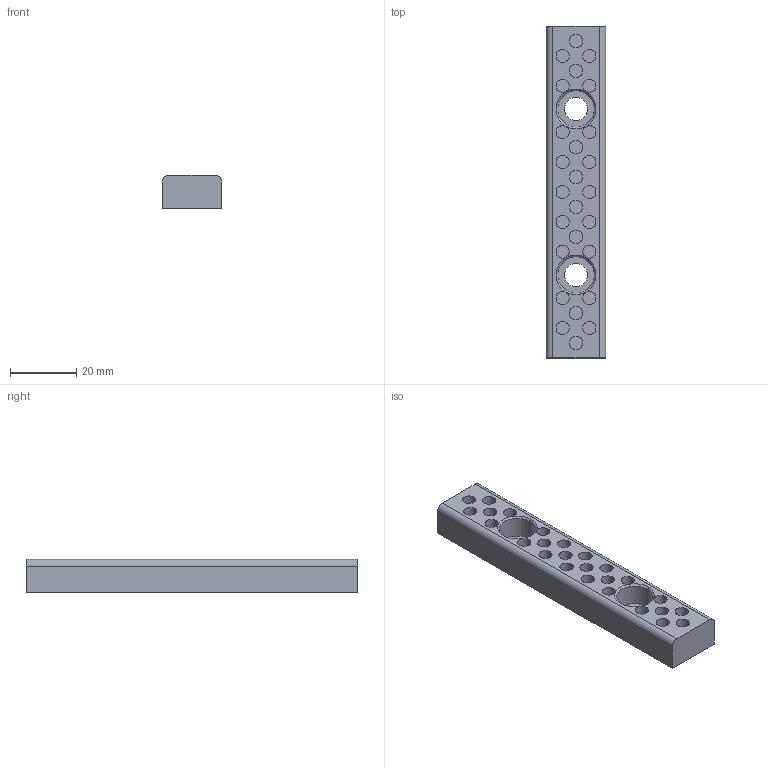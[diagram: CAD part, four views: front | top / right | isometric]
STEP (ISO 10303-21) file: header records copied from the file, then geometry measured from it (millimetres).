
FILE_DESCRIPTION (( 'STEP AP214' ), '1' );
FILE_NAME ('SW220-01-18X100.STEP', '2020-10-14T06:59:54', ( 'August' ), ( '' ), 'SwSTEP 2.0', 'SolidWorks 2018', '' );
FILE_SCHEMA (( 'AUTOMOTIVE_DESIGN' ));
Length unit declared in the file: millimetre
Products named in the file (1): SW220-01-18X100
Bounding box: 18 x 100 x 10 mm (x, y, z)
Volume: 14036.3 mm3; surface area: 8448.8 mm2
Topology: 1 solids, 1 shells, 100 faces, 206 edges, 136 vertices
Faces by surface type: cylinder 62, plane 34, cone 4
Entity records: 2990 total; most frequent: DIRECTION 536, CARTESIAN_POINT 443, ORIENTED_EDGE 412, AXIS2_PLACEMENT_3D 229, EDGE_CURVE 206, VERTEX_POINT 136, EDGE_LOOP 132, CIRCLE 128
